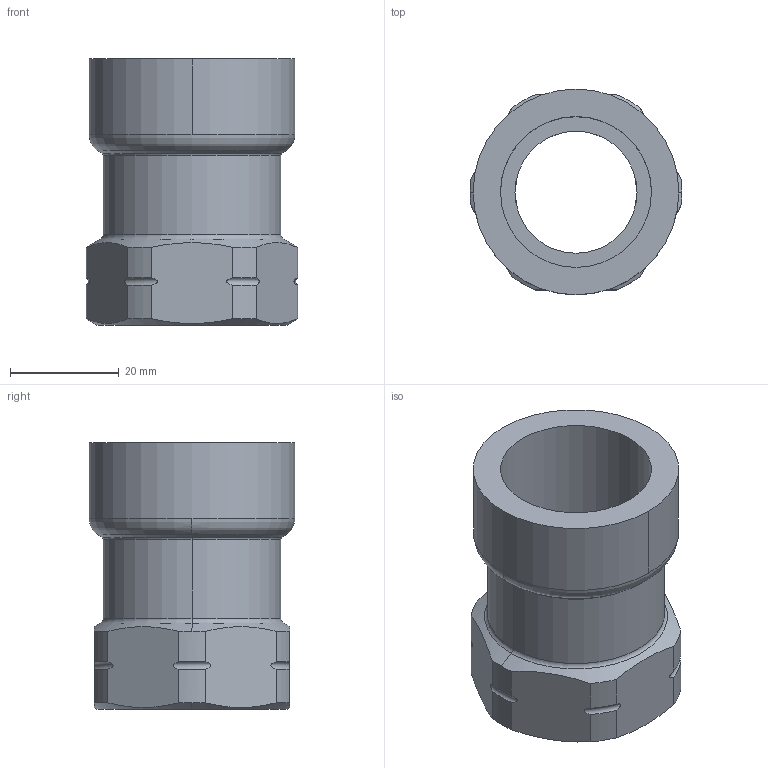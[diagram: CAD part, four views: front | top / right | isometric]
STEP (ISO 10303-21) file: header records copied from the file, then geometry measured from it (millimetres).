
FILE_DESCRIPTION(('Creo Elements/Direct Modeling STEP Export'),'2;1');
FILE_NAME('C9402_3-4.stp','2020-06-18T11:03:59',(''),(''),'PTC Creo Elements/Direct Modeling STEP processor for AP214 (Solid Model)','PTC Creo Elements/Direct Modeling 19.0C 15-Aug-2015 (C) Parametric Technology GmbH','');
FILE_SCHEMA(('AUTOMOTIVE_DESIGN { 1 0 10303 214 1 1 1 1 }'));
Length unit declared in the file: millimetre
Products named in the file (2): C9402_3-4
Assembly tree (1 placements, depth 2):
  C9402_3-4
    C9402_3-4
Bounding box: 39 x 37.9 x 49.02 mm (x, y, z)
Volume: 23224.4 mm3; surface area: 11122.7 mm2
Topology: 1 solids, 1 shells, 49 faces, 127 edges, 81 vertices
Faces by surface type: cylinder 18, torus 12, cone 10, plane 9
Entity records: 3854 total; most frequent: CARTESIAN_POINT 2684, ORIENTED_EDGE 254, DIRECTION 210, EDGE_CURVE 127, AXIS2_PLACEMENT_3D 91, VERTEX_POINT 81, EDGE_LOOP 52, FACE_OUTER_BOUND 49
